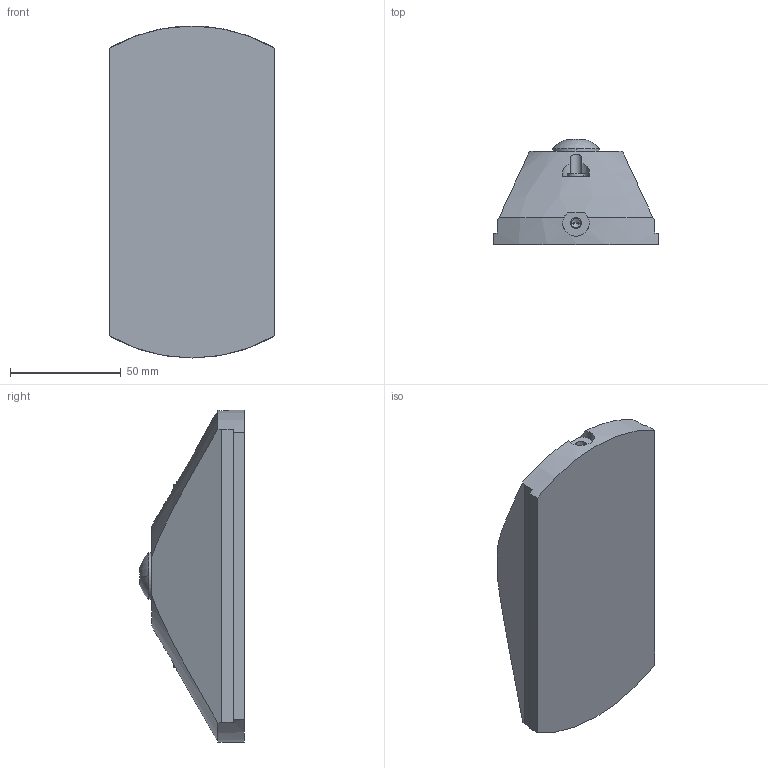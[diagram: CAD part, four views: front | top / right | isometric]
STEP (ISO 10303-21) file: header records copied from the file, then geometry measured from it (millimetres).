
FILE_DESCRIPTION (( 'STEP AP203' ), '1' );
FILE_NAME ('0005439 EZ-0075 75x150.STEP', '2022-01-19T14:34:20', ( '' ), ( '' ), 'SwSTEP 2.0', 'SolidWorks 2021', '' );
FILE_SCHEMA (( 'CONFIG_CONTROL_DESIGN' ));
Length unit declared in the file: millimetre
Products named in the file (1): 0005439 EZ-0075 75x150
Bounding box: 75 x 47.42 x 150 mm (x, y, z)
Volume: 285202.6 mm3; surface area: 32749.9 mm2
Topology: 4 solids, 4 shells, 129 faces, 308 edges, 192 vertices
Faces by surface type: plane 47, cylinder 43, cone 33, torus 4, sphere 2
Entity records: 4025 total; most frequent: CARTESIAN_POINT 977, DIRECTION 642, ORIENTED_EDGE 600, EDGE_CURVE 300, AXIS2_PLACEMENT_3D 257, VERTEX_POINT 192, EDGE_LOOP 144, FACE_OUTER_BOUND 129
